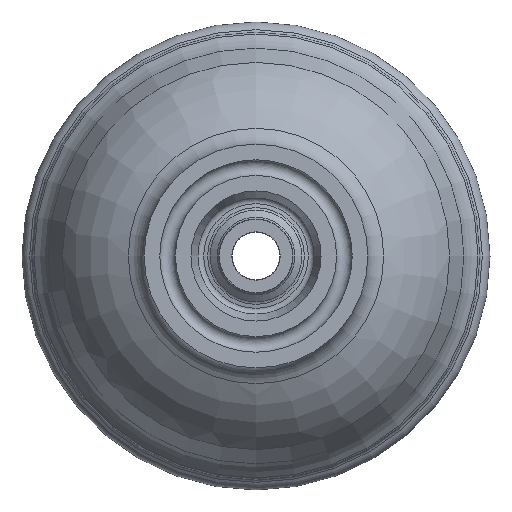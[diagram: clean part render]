
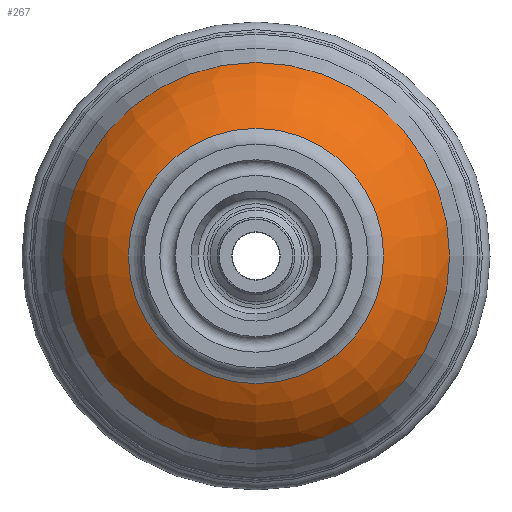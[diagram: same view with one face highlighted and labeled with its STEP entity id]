
A CAD part, front view. The second image highlights one B-rep face of the part: STEP entity #267.
In plain terms, the highlighted toroidal (fillet/blend) face has major radius 71.864 mm and minor radius 130 mm.
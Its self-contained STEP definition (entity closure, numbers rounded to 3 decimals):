
#7 = CARTESIAN_POINT ( 'NONE',  ( 0., 81.704, 0. ) ) ;
#16 = DIRECTION ( 'NONE',  ( 0., 0., -1. ) ) ;
#19 = DIRECTION ( 'NONE',  ( 0., -1., 0. ) ) ;
#59 = EDGE_CURVE ( 'NONE', #479, #479, #356, .T. ) ;
#76 = FACE_OUTER_BOUND ( 'NONE', #498, .T. ) ;
#97 = CARTESIAN_POINT ( 'NONE',  ( 0., 81.704, -186.103 ) ) ;
#102 = TOROIDAL_SURFACE ( 'NONE', #185, 71.864, 130. ) ;
#113 = FACE_OUTER_BOUND ( 'NONE', #347, .T. ) ;
#133 = DIRECTION ( 'NONE',  ( 0., 0., -1. ) ) ;
#141 = CARTESIAN_POINT ( 'NONE',  ( 0., 143.748, 0. ) ) ;
#185 = AXIS2_PLACEMENT_3D ( 'NONE', #141, #247, #133 ) ;
#219 = CIRCLE ( 'NONE', #593, 186.103 ) ;
#247 = DIRECTION ( 'NONE',  ( 0., -1., 0. ) ) ;
#262 = AXIS2_PLACEMENT_3D ( 'NONE', #388, #414, #418 ) ;
#267 = ADVANCED_FACE ( 'NONE', ( #76, #113 ), #102, .T. ) ;
#312 = VERTEX_POINT ( 'NONE', #97 ) ;
#347 = EDGE_LOOP ( 'NONE', ( #538 ) ) ;
#356 = CIRCLE ( 'NONE', #262, 122.7 ) ;
#388 = CARTESIAN_POINT ( 'NONE',  ( 0., 24.1, 0. ) ) ;
#411 = ORIENTED_EDGE ( 'NONE', *, *, #59, .F. ) ;
#414 = DIRECTION ( 'NONE',  ( 0., -1., 0. ) ) ;
#418 = DIRECTION ( 'NONE',  ( 0., 0., -1. ) ) ;
#460 = EDGE_CURVE ( 'NONE', #312, #312, #219, .T. ) ;
#479 = VERTEX_POINT ( 'NONE', #573 ) ;
#498 = EDGE_LOOP ( 'NONE', ( #411 ) ) ;
#538 = ORIENTED_EDGE ( 'NONE', *, *, #460, .T. ) ;
#573 = CARTESIAN_POINT ( 'NONE',  ( 0., 24.1, -122.7 ) ) ;
#593 = AXIS2_PLACEMENT_3D ( 'NONE', #7, #19, #16 ) ;
